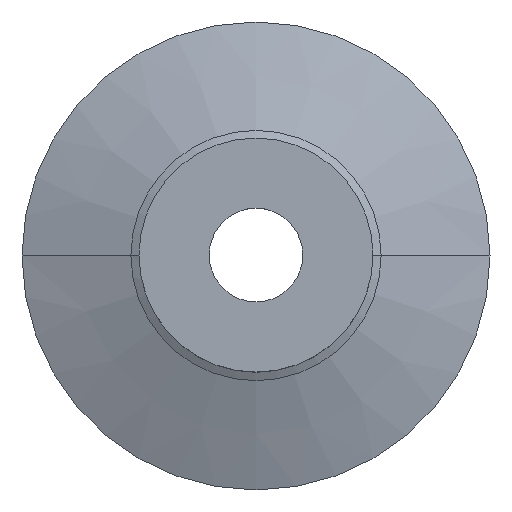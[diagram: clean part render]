
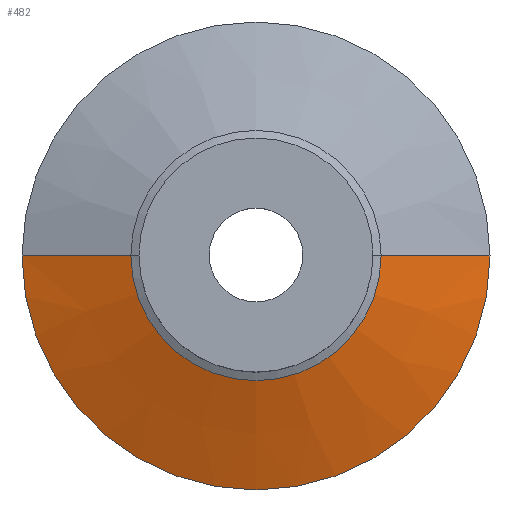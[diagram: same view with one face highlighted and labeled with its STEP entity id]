
A CAD part, top view. The second image highlights one B-rep face of the part: STEP entity #482.
In plain terms, the highlighted conical face has half-angle 70.085 degrees and reference radius 20 mm.
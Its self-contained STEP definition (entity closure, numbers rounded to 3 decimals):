
#3 = DIRECTION ( 'NONE',  ( 0., 0., 1. ) ) ;
#32 = EDGE_LOOP ( 'NONE', ( #970, #217, #199, #931 ) ) ;
#40 = AXIS2_PLACEMENT_3D ( 'NONE', #755, #3, #683 ) ;
#46 = EDGE_CURVE ( 'NONE', #71, #522, #778, .T. ) ;
#63 = CARTESIAN_POINT ( 'NONE',  ( 0., 0., -45. ) ) ;
#71 = VERTEX_POINT ( 'NONE', #474 ) ;
#81 = LINE ( 'NONE', #754, #909 ) ;
#96 = CIRCLE ( 'NONE', #40, 5.722 ) ;
#149 = DIRECTION ( 'NONE',  ( 1., 0., 0. ) ) ;
#196 = VERTEX_POINT ( 'NONE', #760 ) ;
#199 = ORIENTED_EDGE ( 'NONE', *, *, #46, .T. ) ;
#202 = VERTEX_POINT ( 'NONE', #833 ) ;
#217 = ORIENTED_EDGE ( 'NONE', *, *, #910, .F. ) ;
#463 = EDGE_CURVE ( 'NONE', #522, #202, #587, .T. ) ;
#474 = CARTESIAN_POINT ( 'NONE',  ( -5.722, 0., -39.827 ) ) ;
#478 = AXIS2_PLACEMENT_3D ( 'NONE', #63, #591, #149 ) ;
#482 = ADVANCED_FACE ( 'NONE', ( #957 ), #717, .T. ) ;
#522 = VERTEX_POINT ( 'NONE', #819 ) ;
#527 = DIRECTION ( 'NONE',  ( 0., 0., -1. ) ) ;
#578 = VECTOR ( 'NONE', #701, 1000. ) ;
#579 = AXIS2_PLACEMENT_3D ( 'NONE', #893, #527, #594 ) ;
#587 = CIRCLE ( 'NONE', #478, 20. ) ;
#591 = DIRECTION ( 'NONE',  ( 0., 0., 1. ) ) ;
#594 = DIRECTION ( 'NONE',  ( -1., 0., 0. ) ) ;
#598 = EDGE_CURVE ( 'NONE', #196, #202, #81, .T. ) ;
#683 = DIRECTION ( 'NONE',  ( 1., 0., 0. ) ) ;
#701 = DIRECTION ( 'NONE',  ( -0.94, 0., -0.341 ) ) ;
#717 = CONICAL_SURFACE ( 'NONE', #579, 20., 1.223 ) ;
#754 = CARTESIAN_POINT ( 'NONE',  ( 20., 0., -45. ) ) ;
#755 = CARTESIAN_POINT ( 'NONE',  ( 0., 0., -39.827 ) ) ;
#760 = CARTESIAN_POINT ( 'NONE',  ( 5.722, 0., -39.827 ) ) ;
#766 = CARTESIAN_POINT ( 'NONE',  ( -20., 0., -45. ) ) ;
#778 = LINE ( 'NONE', #766, #578 ) ;
#819 = CARTESIAN_POINT ( 'NONE',  ( -20., 0., -45. ) ) ;
#825 = DIRECTION ( 'NONE',  ( 0.94, 0., -0.341 ) ) ;
#833 = CARTESIAN_POINT ( 'NONE',  ( 20., 0., -45. ) ) ;
#893 = CARTESIAN_POINT ( 'NONE',  ( 0., 0., -45. ) ) ;
#909 = VECTOR ( 'NONE', #825, 1000. ) ;
#910 = EDGE_CURVE ( 'NONE', #71, #196, #96, .T. ) ;
#931 = ORIENTED_EDGE ( 'NONE', *, *, #463, .T. ) ;
#957 = FACE_OUTER_BOUND ( 'NONE', #32, .T. ) ;
#970 = ORIENTED_EDGE ( 'NONE', *, *, #598, .F. ) ;
